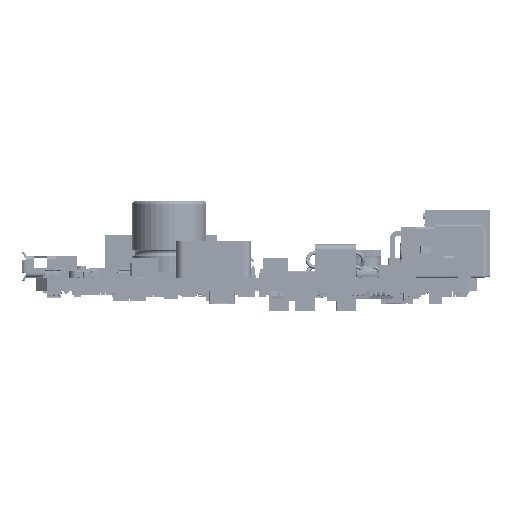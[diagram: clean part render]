
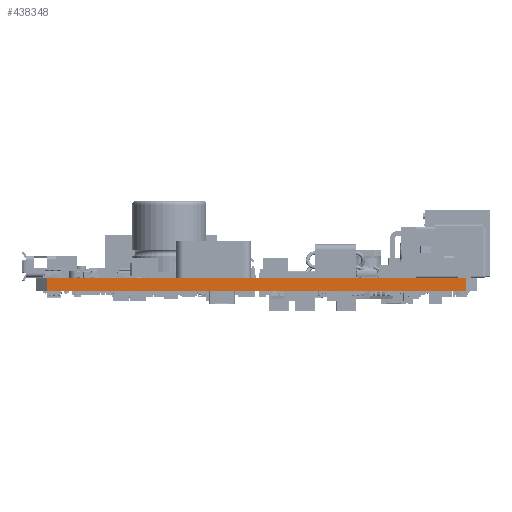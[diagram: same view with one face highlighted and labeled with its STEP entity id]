
A CAD part, left-side view. The second image highlights one B-rep face of the part: STEP entity #438348.
In plain terms, the highlighted planar face has unit normal (-1, 0, 0).
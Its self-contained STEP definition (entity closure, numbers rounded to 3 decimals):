
#6606 = AXIS2_PLACEMENT_3D ( 'NONE', #106899, #732089, #46011 ) ;
#46011 = DIRECTION ( 'NONE',  ( 0., 1., 0. ) ) ;
#94000 = ORIENTED_EDGE ( 'NONE', *, *, #216821, .T. ) ;
#97361 = ORIENTED_EDGE ( 'NONE', *, *, #588594, .T. ) ;
#101525 = DIRECTION ( 'NONE',  ( 0., -1., 0. ) ) ;
#106234 = LINE ( 'NONE', #292966, #362219 ) ;
#106899 = CARTESIAN_POINT ( 'NONE',  ( 0., 58.2, -1.64 ) ) ;
#165485 = EDGE_CURVE ( 'NONE', #166809, #320190, #214845, .T. ) ;
#166809 = VERTEX_POINT ( 'NONE', #575594 ) ;
#200213 = EDGE_CURVE ( 'NONE', #320190, #524004, #106234, .T. ) ;
#201801 = VECTOR ( 'NONE', #462500, 1000. ) ;
#214845 = LINE ( 'NONE', #470523, #201801 ) ;
#216821 = EDGE_CURVE ( 'NONE', #476215, #524004, #376481, .T. ) ;
#219374 = CARTESIAN_POINT ( 'NONE',  ( 0., 1.5, 0. ) ) ;
#292966 = CARTESIAN_POINT ( 'NONE',  ( 0., 58.2, 0. ) ) ;
#309588 = CARTESIAN_POINT ( 'NONE',  ( 0., 1.5, -1.64 ) ) ;
#320190 = VERTEX_POINT ( 'NONE', #376098 ) ;
#362219 = VECTOR ( 'NONE', #540607, 1000. ) ;
#364195 = CARTESIAN_POINT ( 'NONE',  ( 0., 58.2, -1.64 ) ) ;
#376098 = CARTESIAN_POINT ( 'NONE',  ( 0., 58.2, 0. ) ) ;
#376481 = LINE ( 'NONE', #697084, #743461 ) ;
#379033 = EDGE_LOOP ( 'NONE', ( #97361, #94000, #626902, #568358 ) ) ;
#438348 = ADVANCED_FACE ( 'NONE', ( #484326 ), #606198, .F. ) ;
#439159 = VECTOR ( 'NONE', #101525, 1000. ) ;
#462500 = DIRECTION ( 'NONE',  ( 0., 0., 1. ) ) ;
#470523 = CARTESIAN_POINT ( 'NONE',  ( 0., 58.2, -1.64 ) ) ;
#476215 = VERTEX_POINT ( 'NONE', #309588 ) ;
#484326 = FACE_OUTER_BOUND ( 'NONE', #379033, .T. ) ;
#524004 = VERTEX_POINT ( 'NONE', #219374 ) ;
#540607 = DIRECTION ( 'NONE',  ( 0., -1., 0. ) ) ;
#568358 = ORIENTED_EDGE ( 'NONE', *, *, #165485, .F. ) ;
#575192 = DIRECTION ( 'NONE',  ( 0., 0., 1. ) ) ;
#575594 = CARTESIAN_POINT ( 'NONE',  ( 0., 58.2, -1.64 ) ) ;
#588594 = EDGE_CURVE ( 'NONE', #166809, #476215, #596827, .T. ) ;
#596827 = LINE ( 'NONE', #364195, #439159 ) ;
#606198 = PLANE ( 'NONE',  #6606 ) ;
#626902 = ORIENTED_EDGE ( 'NONE', *, *, #200213, .F. ) ;
#697084 = CARTESIAN_POINT ( 'NONE',  ( 0., 1.5, -1.64 ) ) ;
#732089 = DIRECTION ( 'NONE',  ( 1., 0., 0. ) ) ;
#743461 = VECTOR ( 'NONE', #575192, 1000. ) ;
